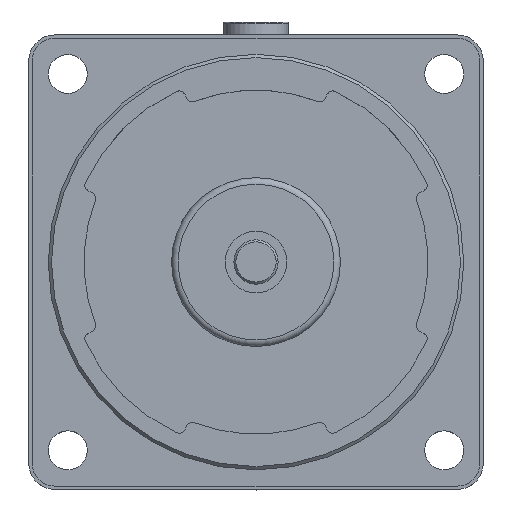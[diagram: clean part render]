
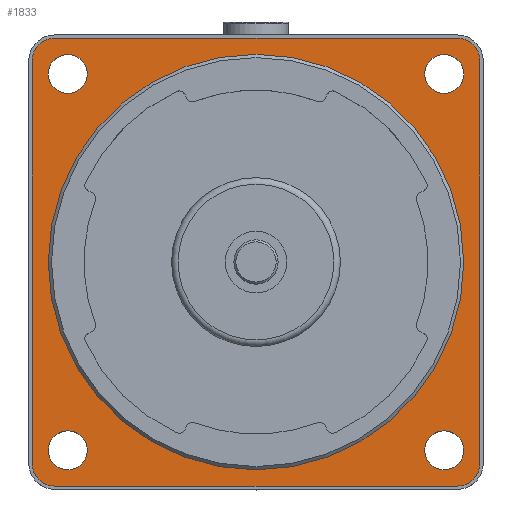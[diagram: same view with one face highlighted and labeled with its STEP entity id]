
A CAD part, top view. The second image highlights one B-rep face of the part: STEP entity #1833.
In plain terms, the highlighted planar face has unit normal (0, 0, 1).
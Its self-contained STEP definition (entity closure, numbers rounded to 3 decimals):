
#2 = FACE_OUTER_BOUND ( 'NONE', #619, .T. ) ;
#79 = EDGE_CURVE ( 'NONE', #6756, #6756, #6695, .T. ) ;
#228 = DIRECTION ( 'NONE',  ( 1., 0., 0. ) ) ;
#388 = VERTEX_POINT ( 'NONE', #2030 ) ;
#443 = DIRECTION ( 'NONE',  ( 0., -1., 0. ) ) ;
#449 = CIRCLE ( 'NONE', #2369, 3.5 ) ;
#451 = DIRECTION ( 'NONE',  ( 0., 0., 1. ) ) ;
#490 = CARTESIAN_POINT ( 'NONE',  ( -34.5, 31., 0. ) ) ;
#498 = EDGE_CURVE ( 'NONE', #6904, #6904, #5862, .T. ) ;
#531 = DIRECTION ( 'NONE',  ( 1., 0., 0. ) ) ;
#537 = ORIENTED_EDGE ( 'NONE', *, *, #6405, .T. ) ;
#589 = AXIS2_PLACEMENT_3D ( 'NONE', #5212, #6422, #664 ) ;
#619 = EDGE_LOOP ( 'NONE', ( #3202, #7326, #2059, #698, #4887, #5724, #537, #4610 ) ) ;
#664 = DIRECTION ( 'NONE',  ( 1., 0., 0. ) ) ;
#672 = DIRECTION ( 'NONE',  ( 0., 0., 1. ) ) ;
#698 = ORIENTED_EDGE ( 'NONE', *, *, #5079, .T. ) ;
#702 = CARTESIAN_POINT ( 'NONE',  ( 34.5, 31., 0. ) ) ;
#715 = CIRCLE ( 'NONE', #3850, 3.5 ) ;
#735 = VERTEX_POINT ( 'NONE', #1799 ) ;
#752 = DIRECTION ( 'NONE',  ( 0., 0., 1. ) ) ;
#955 = CIRCLE ( 'NONE', #6600, 3. ) ;
#1011 = FACE_BOUND ( 'NONE', #5050, .T. ) ;
#1014 = EDGE_CURVE ( 'NONE', #4170, #388, #449, .T. ) ;
#1095 = CARTESIAN_POINT ( 'NONE',  ( 34.5, -31., 0. ) ) ;
#1115 = CARTESIAN_POINT ( 'NONE',  ( -34.5, -31., 0. ) ) ;
#1141 = CARTESIAN_POINT ( 'NONE',  ( 31., 34.5, 0. ) ) ;
#1144 = VERTEX_POINT ( 'NONE', #5736 ) ;
#1184 = AXIS2_PLACEMENT_3D ( 'NONE', #5042, #451, #6323 ) ;
#1190 = CIRCLE ( 'NONE', #6117, 3. ) ;
#1309 = AXIS2_PLACEMENT_3D ( 'NONE', #5566, #6249, #531 ) ;
#1317 = EDGE_CURVE ( 'NONE', #4649, #6906, #2824, .T. ) ;
#1318 = CIRCLE ( 'NONE', #4695, 3.5 ) ;
#1799 = CARTESIAN_POINT ( 'NONE',  ( 28.991, 25.991, 0. ) ) ;
#1809 = VECTOR ( 'NONE', #5603, 1000. ) ;
#1833 = ADVANCED_FACE ( 'NONE', ( #1011, #3885, #4605, #5076, #3321, #2 ), #5598, .T. ) ;
#1843 = EDGE_CURVE ( 'NONE', #1144, #1144, #5387, .T. ) ;
#1904 = DIRECTION ( 'NONE',  ( 1., 0., 0. ) ) ;
#2030 = CARTESIAN_POINT ( 'NONE',  ( -31., -34.5, 0. ) ) ;
#2059 = ORIENTED_EDGE ( 'NONE', *, *, #2969, .T. ) ;
#2079 = DIRECTION ( 'NONE',  ( 0., 0., 1. ) ) ;
#2220 = DIRECTION ( 'NONE',  ( 1., 0., 0. ) ) ;
#2369 = AXIS2_PLACEMENT_3D ( 'NONE', #6826, #5694, #1904 ) ;
#2384 = VERTEX_POINT ( 'NONE', #2590 ) ;
#2479 = AXIS2_PLACEMENT_3D ( 'NONE', #4634, #672, #4559 ) ;
#2489 = LINE ( 'NONE', #490, #5761 ) ;
#2590 = CARTESIAN_POINT ( 'NONE',  ( 31., -34.5, 0. ) ) ;
#2599 = CARTESIAN_POINT ( 'NONE',  ( 31., 31., 0. ) ) ;
#2682 = VERTEX_POINT ( 'NONE', #7147 ) ;
#2715 = DIRECTION ( 'NONE',  ( 0., 0., 1. ) ) ;
#2766 = CARTESIAN_POINT ( 'NONE',  ( 25.991, -28.991, 0. ) ) ;
#2773 = DIRECTION ( 'NONE',  ( -1., 0., 0. ) ) ;
#2789 = DIRECTION ( 'NONE',  ( 0., -1., 0. ) ) ;
#2800 = VERTEX_POINT ( 'NONE', #3861 ) ;
#2824 = LINE ( 'NONE', #1095, #7204 ) ;
#2969 = EDGE_CURVE ( 'NONE', #4651, #2800, #6822, .T. ) ;
#2991 = CARTESIAN_POINT ( 'NONE',  ( 34.5, -31., 0. ) ) ;
#3012 = ORIENTED_EDGE ( 'NONE', *, *, #1843, .F. ) ;
#3202 = ORIENTED_EDGE ( 'NONE', *, *, #1317, .T. ) ;
#3220 = EDGE_LOOP ( 'NONE', ( #4137 ) ) ;
#3242 = CIRCLE ( 'NONE', #589, 3.5 ) ;
#3252 = ORIENTED_EDGE ( 'NONE', *, *, #79, .F. ) ;
#3321 = FACE_BOUND ( 'NONE', #3865, .T. ) ;
#3364 = VECTOR ( 'NONE', #2220, 1000. ) ;
#3556 = VERTEX_POINT ( 'NONE', #4690 ) ;
#3850 = AXIS2_PLACEMENT_3D ( 'NONE', #2599, #2715, #4456 ) ;
#3861 = CARTESIAN_POINT ( 'NONE',  ( -31., 34.5, 0. ) ) ;
#3865 = EDGE_LOOP ( 'NONE', ( #3012 ) ) ;
#3885 = FACE_BOUND ( 'NONE', #3220, .T. ) ;
#3971 = CARTESIAN_POINT ( 'NONE',  ( 32., 0., 0. ) ) ;
#4022 = ORIENTED_EDGE ( 'NONE', *, *, #498, .F. ) ;
#4137 = ORIENTED_EDGE ( 'NONE', *, *, #4948, .F. ) ;
#4170 = VERTEX_POINT ( 'NONE', #1115 ) ;
#4456 = DIRECTION ( 'NONE',  ( 1., 0., 0. ) ) ;
#4491 = DIRECTION ( 'NONE',  ( 0., 0., 1. ) ) ;
#4559 = DIRECTION ( 'NONE',  ( 1., 0., 0. ) ) ;
#4605 = FACE_BOUND ( 'NONE', #6055, .T. ) ;
#4610 = ORIENTED_EDGE ( 'NONE', *, *, #6383, .T. ) ;
#4634 = CARTESIAN_POINT ( 'NONE',  ( 0., 0., 0. ) ) ;
#4649 = VERTEX_POINT ( 'NONE', #2991 ) ;
#4651 = VERTEX_POINT ( 'NONE', #1141 ) ;
#4657 = DIRECTION ( 'NONE',  ( 0., 0., 1. ) ) ;
#4690 = CARTESIAN_POINT ( 'NONE',  ( -28.991, -25.991, 0. ) ) ;
#4695 = AXIS2_PLACEMENT_3D ( 'NONE', #5372, #752, #228 ) ;
#4887 = ORIENTED_EDGE ( 'NONE', *, *, #4946, .T. ) ;
#4946 = EDGE_CURVE ( 'NONE', #2682, #4170, #2489, .T. ) ;
#4948 = EDGE_CURVE ( 'NONE', #3556, #3556, #1190, .T. ) ;
#5003 = CARTESIAN_POINT ( 'NONE',  ( -31., -34.5, 0. ) ) ;
#5042 = CARTESIAN_POINT ( 'NONE',  ( 0., 0., 0. ) ) ;
#5050 = EDGE_LOOP ( 'NONE', ( #3252 ) ) ;
#5076 = FACE_BOUND ( 'NONE', #5162, .T. ) ;
#5079 = EDGE_CURVE ( 'NONE', #2800, #2682, #3242, .T. ) ;
#5162 = EDGE_LOOP ( 'NONE', ( #6986 ) ) ;
#5212 = CARTESIAN_POINT ( 'NONE',  ( -31., 31., 0. ) ) ;
#5261 = EDGE_CURVE ( 'NONE', #735, #735, #955, .T. ) ;
#5354 = EDGE_CURVE ( 'NONE', #6906, #4651, #715, .T. ) ;
#5372 = CARTESIAN_POINT ( 'NONE',  ( 31., -31., 0. ) ) ;
#5387 = CIRCLE ( 'NONE', #1309, 3. ) ;
#5562 = LINE ( 'NONE', #5003, #3364 ) ;
#5566 = CARTESIAN_POINT ( 'NONE',  ( -28.991, 28.991, 0. ) ) ;
#5598 = PLANE ( 'NONE',  #1184 ) ;
#5603 = DIRECTION ( 'NONE',  ( -1., 0., 0. ) ) ;
#5694 = DIRECTION ( 'NONE',  ( 0., 0., 1. ) ) ;
#5724 = ORIENTED_EDGE ( 'NONE', *, *, #1014, .T. ) ;
#5736 = CARTESIAN_POINT ( 'NONE',  ( -25.991, 28.991, 0. ) ) ;
#5761 = VECTOR ( 'NONE', #2789, 1000. ) ;
#5862 = CIRCLE ( 'NONE', #7416, 3. ) ;
#6055 = EDGE_LOOP ( 'NONE', ( #4022 ) ) ;
#6097 = CARTESIAN_POINT ( 'NONE',  ( 28.991, 28.991, 0. ) ) ;
#6117 = AXIS2_PLACEMENT_3D ( 'NONE', #6775, #4491, #7250 ) ;
#6249 = DIRECTION ( 'NONE',  ( 0., 0., 1. ) ) ;
#6256 = CARTESIAN_POINT ( 'NONE',  ( 31., 34.5, 0. ) ) ;
#6323 = DIRECTION ( 'NONE',  ( 1., 0., 0. ) ) ;
#6383 = EDGE_CURVE ( 'NONE', #2384, #4649, #1318, .T. ) ;
#6384 = CARTESIAN_POINT ( 'NONE',  ( 28.991, -28.991, 0. ) ) ;
#6405 = EDGE_CURVE ( 'NONE', #388, #2384, #5562, .T. ) ;
#6422 = DIRECTION ( 'NONE',  ( 0., 0., 1. ) ) ;
#6600 = AXIS2_PLACEMENT_3D ( 'NONE', #6097, #2079, #443 ) ;
#6695 = CIRCLE ( 'NONE', #2479, 32. ) ;
#6756 = VERTEX_POINT ( 'NONE', #3971 ) ;
#6775 = CARTESIAN_POINT ( 'NONE',  ( -28.991, -28.991, 0. ) ) ;
#6811 = DIRECTION ( 'NONE',  ( 0., 1., 0. ) ) ;
#6822 = LINE ( 'NONE', #6256, #1809 ) ;
#6826 = CARTESIAN_POINT ( 'NONE',  ( -31., -31., 0. ) ) ;
#6904 = VERTEX_POINT ( 'NONE', #2766 ) ;
#6906 = VERTEX_POINT ( 'NONE', #702 ) ;
#6986 = ORIENTED_EDGE ( 'NONE', *, *, #5261, .F. ) ;
#7147 = CARTESIAN_POINT ( 'NONE',  ( -34.5, 31., 0. ) ) ;
#7204 = VECTOR ( 'NONE', #6811, 1000. ) ;
#7250 = DIRECTION ( 'NONE',  ( 0., 1., 0. ) ) ;
#7326 = ORIENTED_EDGE ( 'NONE', *, *, #5354, .T. ) ;
#7416 = AXIS2_PLACEMENT_3D ( 'NONE', #6384, #4657, #2773 ) ;
